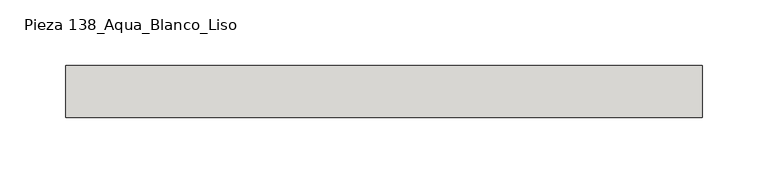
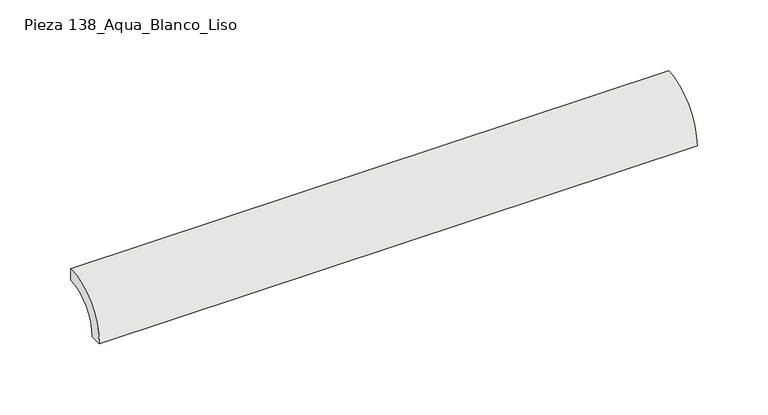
"""IFC4 building model written with IfcOpenShell, lengths in millimetres: slab geometry, ROSA GRES_138 : Pieza 138_Aqua_Blanco_Liso."""

from ifc_helpers import new_model, si_unit, point, frame, frame_2d, origin, origin_2d, place, context, project, spatial, polyline, circle_curve, trimmed, segment, composite_curve, outline, extrude, source, transform, mapped, element, save


def pieza_138_aqua_blanco_liso_d8f91d04(model_context):
    return source(origin(), model_context, "Body", "SweptSolid", [
        extrude(outline(composite_curve([segment(polyline([(0.0, 40.0), (0.0, 30.0265886)]), True, "CONTINUOUS"), segment(trimmed(circle_curve(frame_2d((-0.0044453, 0.0044453)), 30.0221435), [point((0.0, 30.0265886))], [point((-30.0265886, 0.0))], True, "CARTESIAN"), True, "CONTINUOUS"), segment(polyline([(-30.0265886, 0.0), (-40.0, 0.0)]), True, "CONTINUOUS"), segment(trimmed(circle_curve(origin_2d(), 40.0), [point((-40.0, 0.0))], [point((0.0, 40.0))], False, "CARTESIAN"), True, "CONTINUOUS")], self_intersect=False)), frame((0.0, 0.0, 0.0), z_axis=(1.0, 0.0, 0.0), x_axis=(0.0, 1.0, 0.0)), (0.0, 0.0, 1.0), 486.0),
    ])


if __name__ == "__main__":
    model = new_model("IFC4")
    model_context = context("Model", 3, world=origin())
    ifc_project = project(units=[si_unit("LENGTHUNIT", "METRE", prefix="MILLI")], contexts=[model_context])
    site = spatial("IfcSite", under=ifc_project)
    building = spatial("IfcBuilding", under=site)
    placement = place(None, origin())
    pieza_138_aqua_blanco_liso_shape = pieza_138_aqua_blanco_liso_d8f91d04(model_context)
    element("IfcSlab", 1, ObjectType="ROSA GRES_138 : Pieza 138_Aqua_Blanco_Liso", at=placement, inside=building, context=model_context, shape_type="MappedRepresentation", body=[
        mapped(pieza_138_aqua_blanco_liso_shape, transform((0.0, 0.0, 0.0), x_axis=(1.0, 0.0, 0.0), y_axis=(0.0, 1.0, 0.0), z_axis=(0.0, 0.0, 1.0))),
    ])
    save(model, "model.ifc")
